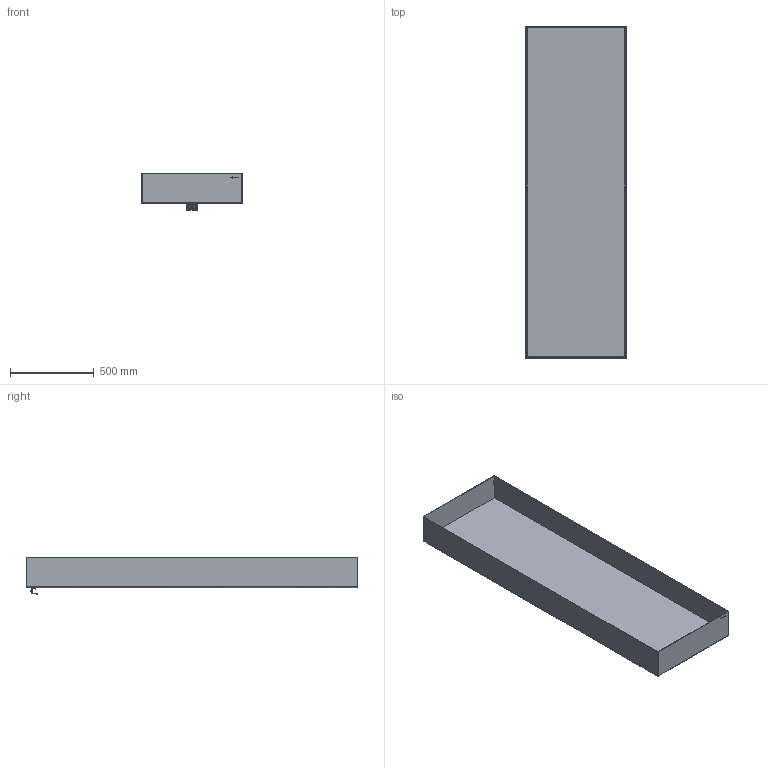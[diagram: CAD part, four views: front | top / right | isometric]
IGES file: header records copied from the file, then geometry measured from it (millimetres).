
Start section: SolidWorks IGES file using analytic representation for surfaces
Global section: file name: C:\VaultDeCastelli\Progetti\DC\PESO LEGGERO PRODOTTI\Ale\DeCastelli-3D-Frame 60.igs; native system: SolidWorks 2022; preprocessor: SolidWorks 2022; author: AlessandroP; date: 240726.104111; units: millimetre
Bounding box: 600 x 1980 x 217.64 mm (x, y, z)
Surface area: 4412862.7 mm2 (no closed solid volume)
Topology: 0 solids, 0 shells, 110 faces, 2190 edges, 2190 vertices
Faces by surface type: bspline 87, revolution 23
